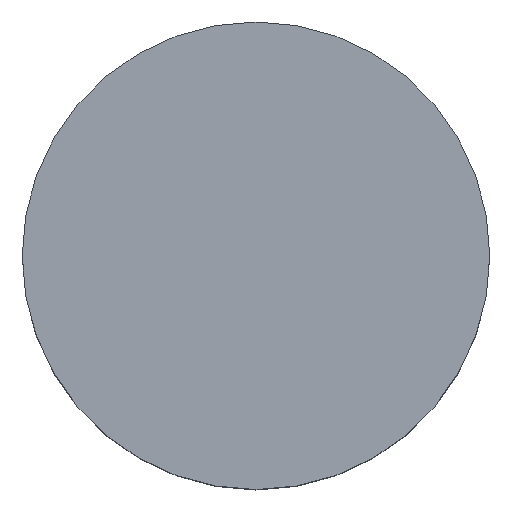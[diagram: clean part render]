
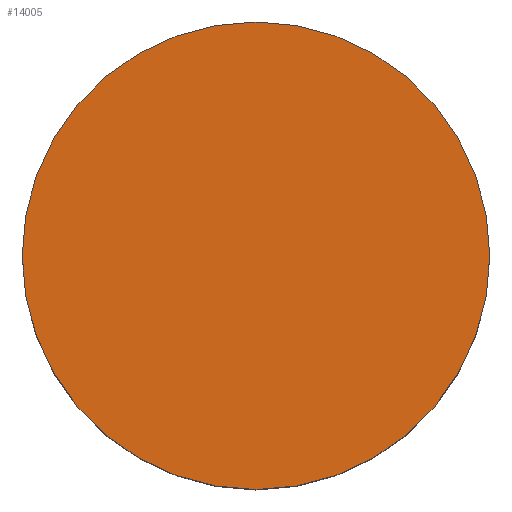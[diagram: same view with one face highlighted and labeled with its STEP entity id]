
A CAD part, top view. The second image highlights one B-rep face of the part: STEP entity #14005.
In plain terms, the highlighted planar face has unit normal (0, 0, 1).
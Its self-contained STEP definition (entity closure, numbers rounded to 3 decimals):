
#1564 = DIRECTION ( 'NONE',  ( 0., -1., 0. ) ) ;
#1746 = DIRECTION ( 'NONE',  ( 0., 0., 1. ) ) ;
#2075 = EDGE_LOOP ( 'NONE', ( #2905, #15605 ) ) ;
#2177 = VERTEX_POINT ( 'NONE', #20721 ) ;
#2275 = CARTESIAN_POINT ( 'NONE',  ( 29.3, 0., 32.2 ) ) ;
#2905 = ORIENTED_EDGE ( 'NONE', *, *, #7119, .T. ) ;
#3418 = CARTESIAN_POINT ( 'NONE',  ( 0., 0., 32.2 ) ) ;
#3706 = DIRECTION ( 'NONE',  ( 0., 0., 1. ) ) ;
#3822 = CIRCLE ( 'NONE', #12510, 29.3 ) ;
#5350 = DIRECTION ( 'NONE',  ( 0., -1., 0. ) ) ;
#6896 = DIRECTION ( 'NONE',  ( 0., -1., 0. ) ) ;
#7119 = EDGE_CURVE ( 'NONE', #2177, #21639, #19608, .T. ) ;
#7189 = CARTESIAN_POINT ( 'NONE',  ( 0., 0., 32.2 ) ) ;
#10467 = DIRECTION ( 'NONE',  ( 0., 0., 1. ) ) ;
#11912 = CARTESIAN_POINT ( 'NONE',  ( -29.3, 45.771, 32.2 ) ) ;
#12510 = AXIS2_PLACEMENT_3D ( 'NONE', #7189, #3706, #5350 ) ;
#13748 = PLANE ( 'NONE',  #14299 ) ;
#14005 = ADVANCED_FACE ( 'NONE', ( #15381 ), #13748, .T. ) ;
#14299 = AXIS2_PLACEMENT_3D ( 'NONE', #11912, #10467, #1564 ) ;
#15381 = FACE_OUTER_BOUND ( 'NONE', #2075, .T. ) ;
#15605 = ORIENTED_EDGE ( 'NONE', *, *, #21244, .T. ) ;
#16973 = AXIS2_PLACEMENT_3D ( 'NONE', #3418, #1746, #6896 ) ;
#19608 = CIRCLE ( 'NONE', #16973, 29.3 ) ;
#20721 = CARTESIAN_POINT ( 'NONE',  ( -29.3, 0., 32.2 ) ) ;
#21244 = EDGE_CURVE ( 'NONE', #21639, #2177, #3822, .T. ) ;
#21639 = VERTEX_POINT ( 'NONE', #2275 ) ;
